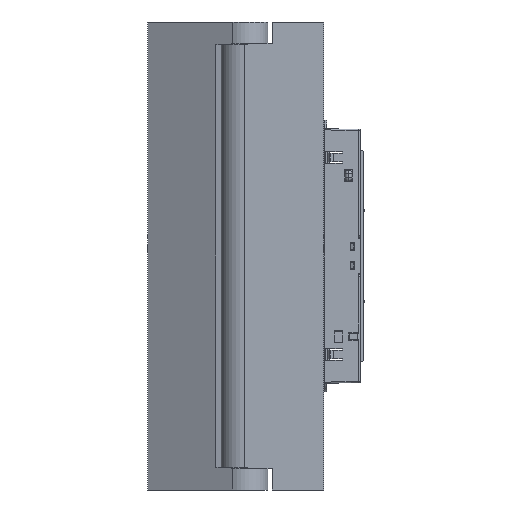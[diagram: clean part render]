
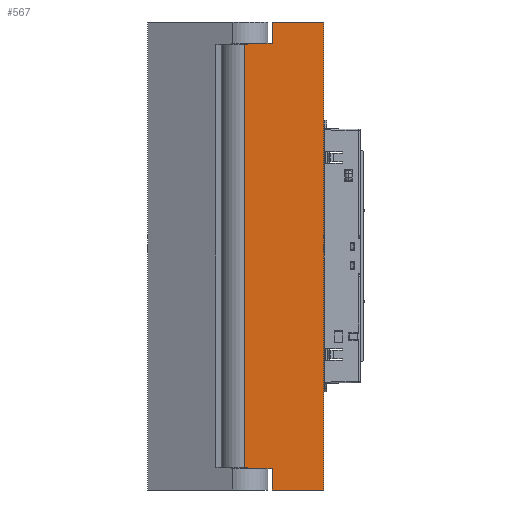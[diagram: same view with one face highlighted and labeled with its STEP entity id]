
A CAD part, left-side view. The second image highlights one B-rep face of the part: STEP entity #567.
In plain terms, the highlighted planar face has unit normal (-1, 0, 0).
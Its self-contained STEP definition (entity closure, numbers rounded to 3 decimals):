
#55=DIRECTION('',(0.,0.,-1.));
#56=VECTOR('',#55,10.);
#57=CARTESIAN_POINT('',(-11.,5.5,-99.));
#58=LINE('',#57,#56);
#110=DIRECTION('',(0.,1.,0.));
#111=VECTOR('',#110,13.);
#112=CARTESIAN_POINT('',(-11.,5.5,-99.));
#113=LINE('',#112,#111);
#114=DIRECTION('',(0.,0.,1.));
#115=VECTOR('',#114,10.);
#116=CARTESIAN_POINT('',(-11.,5.5,99.));
#117=LINE('',#116,#115);
#118=DIRECTION('',(0.,0.,-1.));
#119=VECTOR('',#118,218.);
#120=CARTESIAN_POINT('',(-11.,-18.5,109.));
#121=LINE('',#120,#119);
#122=DIRECTION('',(0.,1.,0.));
#123=VECTOR('',#122,24.);
#124=CARTESIAN_POINT('',(-11.,-18.5,-109.));
#125=LINE('',#124,#123);
#130=DIRECTION('',(0.,0.,-1.));
#131=VECTOR('',#130,198.);
#132=CARTESIAN_POINT('',(-11.,18.5,99.));
#133=LINE('',#132,#131);
#138=DIRECTION('',(0.,1.,0.));
#139=VECTOR('',#138,13.);
#140=CARTESIAN_POINT('',(-11.,5.5,99.));
#141=LINE('',#140,#139);
#173=DIRECTION('',(0.,1.,0.));
#174=VECTOR('',#173,24.);
#175=CARTESIAN_POINT('',(-11.,-18.5,109.));
#176=LINE('',#175,#174);
#355=CARTESIAN_POINT('',(-11.,5.5,-109.));
#357=VERTEX_POINT('',#355);
#359=CARTESIAN_POINT('',(-11.,-18.5,-109.));
#360=VERTEX_POINT('',#359);
#364=CARTESIAN_POINT('',(-11.,5.5,-99.));
#366=VERTEX_POINT('',#364);
#369=CARTESIAN_POINT('',(-11.,18.5,-99.));
#370=VERTEX_POINT('',#369);
#383=CARTESIAN_POINT('',(-11.,-18.5,109.));
#384=VERTEX_POINT('',#383);
#393=CARTESIAN_POINT('',(-11.,18.5,99.));
#394=VERTEX_POINT('',#393);
#395=CARTESIAN_POINT('',(-11.,5.5,99.));
#396=VERTEX_POINT('',#395);
#397=CARTESIAN_POINT('',(-11.,5.5,109.));
#398=VERTEX_POINT('',#397);
#548=CARTESIAN_POINT('',(-11.,18.5,-109.));
#549=DIRECTION('',(-1.,0.,0.));
#550=DIRECTION('',(0.,-1.,0.));
#551=AXIS2_PLACEMENT_3D('',#548,#549,#550);
#552=PLANE('',#551);
#553=ORIENTED_EDGE('',*,*,#492,.T.);
#555=ORIENTED_EDGE('',*,*,#554,.F.);
#557=ORIENTED_EDGE('',*,*,#556,.F.);
#559=ORIENTED_EDGE('',*,*,#558,.T.);
#561=ORIENTED_EDGE('',*,*,#560,.F.);
#562=ORIENTED_EDGE('',*,*,#530,.T.);
#563=ORIENTED_EDGE('',*,*,#458,.T.);
#564=ORIENTED_EDGE('',*,*,#474,.F.);
#565=EDGE_LOOP('',(#553,#555,#557,#559,#561,#562,#563,#564));
#566=FACE_OUTER_BOUND('',#565,.F.);
#458=EDGE_CURVE('',#360,#357,#125,.T.);
#474=EDGE_CURVE('',#366,#357,#58,.T.);
#492=EDGE_CURVE('',#366,#370,#113,.T.);
#530=EDGE_CURVE('',#384,#360,#121,.T.);
#554=EDGE_CURVE('',#394,#370,#133,.T.);
#556=EDGE_CURVE('',#396,#394,#141,.T.);
#558=EDGE_CURVE('',#396,#398,#117,.T.);
#560=EDGE_CURVE('',#384,#398,#176,.T.);
#567=ADVANCED_FACE('',(#566),#552,.T.);
